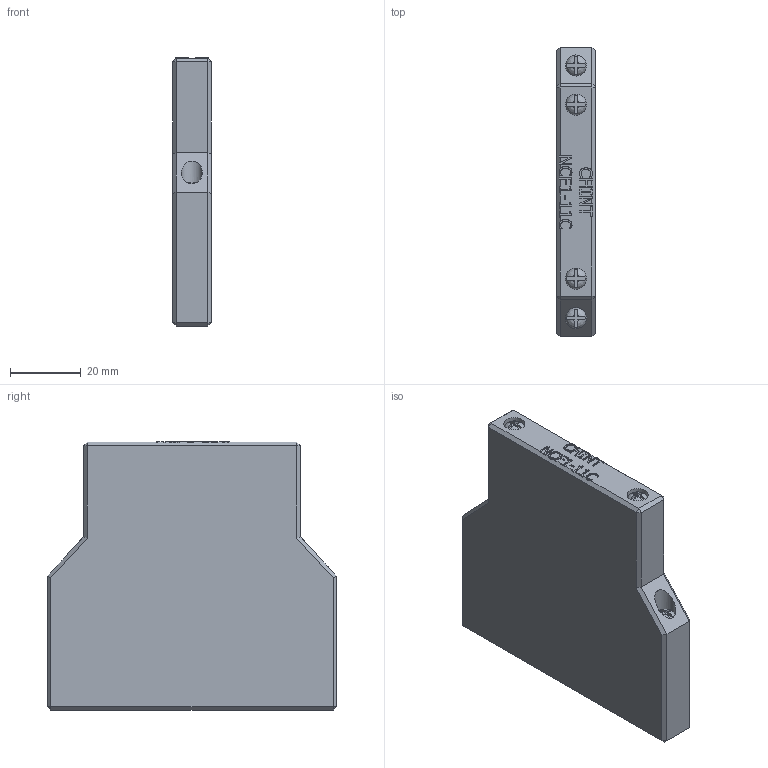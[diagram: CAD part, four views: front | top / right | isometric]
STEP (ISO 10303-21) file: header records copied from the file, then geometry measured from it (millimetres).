
FILE_DESCRIPTION(/* description */ (''),/* implementation_level */ '2;1');
FILE_NAME(/* name */ 'D:\CHINT2\NR2\Вспомогательный контакт боковой NCF1-11C.stp',/* time_stamp */ '2017-11-22T19:58:53+03:00',/* author */ ('RSagdiev'),/* organization */ (''),/* preprocessor_version */ 'ST-DEVELOPER v16.5',/* originating_system */ 'Autodesk Inventor 2017',/* authorisation */ '');
FILE_SCHEMA (('AUTOMOTIVE_DESIGN { 1 0 10303 214 3 1 1 }'));
Length unit declared in the file: millimetre
Products named in the file (1): Вспомогательный 
контакт боковой 
NCF1-11C
Bounding box: 11 x 82 x 76.1 mm (x, y, z)
Volume: 60637.4 mm3; surface area: 14819.4 mm2
Topology: 5 solids, 5 shells, 285 faces, 785 edges, 515 vertices
Faces by surface type: plane 222, bspline 55, cylinder 8
Full cylindrical faces by diameter (mm): 6 x8
Entity records: 9728 total; most frequent: CARTESIAN_POINT 2873, ORIENTED_EDGE 1550, DIRECTION 1149, EDGE_CURVE 775, LINE 573, VECTOR 573, VERTEX_POINT 513, EDGE_LOOP 298
